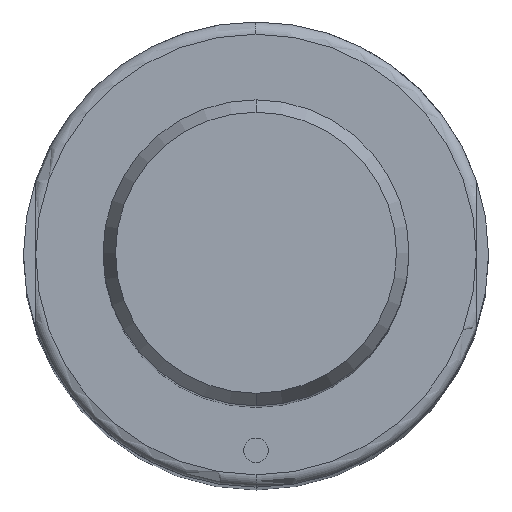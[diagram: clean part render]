
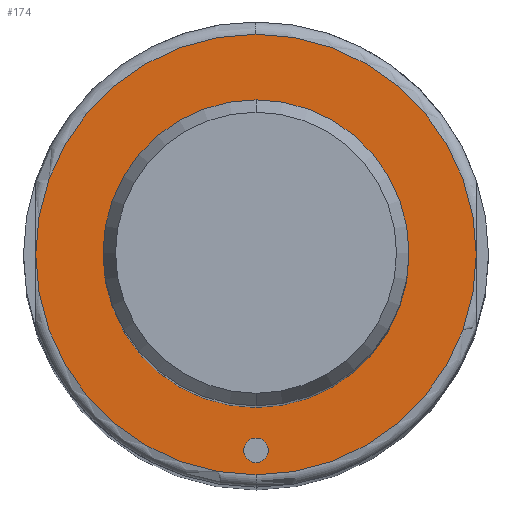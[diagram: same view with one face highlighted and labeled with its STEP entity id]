
A CAD part, top view. The second image highlights one B-rep face of the part: STEP entity #174.
In plain terms, the highlighted planar face has unit normal (0, 0, 1).
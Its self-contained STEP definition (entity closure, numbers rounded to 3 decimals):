
#105=FACE_BOUND('',#298,.T.);
#106=FACE_BOUND('',#299,.T.);
#107=FACE_BOUND('',#300,.T.);
#125=PLANE('',#985);
#174=ADVANCED_FACE('',(#105,#106,#107),#125,.T.);
#298=EDGE_LOOP('',(#459,#460,#461,#462));
#299=EDGE_LOOP('',(#463,#464));
#300=EDGE_LOOP('',(#465,#466));
#367=CIRCLE('',#968,12.5);
#368=CIRCLE('',#970,12.5);
#373=CIRCLE('',#979,18.);
#374=CIRCLE('',#980,18.);
#375=CIRCLE('',#981,18.);
#376=CIRCLE('',#982,18.);
#377=CIRCLE('',#983,1.);
#378=CIRCLE('',#984,1.);
#459=ORIENTED_EDGE('',*,*,#765,.F.);
#460=ORIENTED_EDGE('',*,*,#766,.F.);
#461=ORIENTED_EDGE('',*,*,#767,.F.);
#462=ORIENTED_EDGE('',*,*,#768,.F.);
#463=ORIENTED_EDGE('',*,*,#769,.F.);
#464=ORIENTED_EDGE('',*,*,#770,.F.);
#465=ORIENTED_EDGE('',*,*,#758,.T.);
#466=ORIENTED_EDGE('',*,*,#756,.T.);
#677=VERTEX_POINT('',#1411);
#678=VERTEX_POINT('',#1413);
#683=VERTEX_POINT('',#1432);
#684=VERTEX_POINT('',#1433);
#685=VERTEX_POINT('',#1435);
#686=VERTEX_POINT('',#1437);
#687=VERTEX_POINT('',#1440);
#688=VERTEX_POINT('',#1441);
#756=EDGE_CURVE('',#678,#677,#367,.T.);
#758=EDGE_CURVE('',#677,#678,#368,.T.);
#765=EDGE_CURVE('',#683,#684,#373,.T.);
#766=EDGE_CURVE('',#685,#683,#374,.T.);
#767=EDGE_CURVE('',#686,#685,#375,.T.);
#768=EDGE_CURVE('',#684,#686,#376,.T.);
#769=EDGE_CURVE('',#687,#688,#377,.T.);
#770=EDGE_CURVE('',#688,#687,#378,.T.);
#968=AXIS2_PLACEMENT_3D('',#1412,#1108,#1109);
#970=AXIS2_PLACEMENT_3D('',#1416,#1113,#1114);
#979=AXIS2_PLACEMENT_3D('',#1431,#1133,#1134);
#980=AXIS2_PLACEMENT_3D('',#1434,#1135,#1136);
#981=AXIS2_PLACEMENT_3D('',#1436,#1137,#1138);
#982=AXIS2_PLACEMENT_3D('',#1438,#1139,#1140);
#983=AXIS2_PLACEMENT_3D('',#1439,#1141,#1142);
#984=AXIS2_PLACEMENT_3D('',#1442,#1143,#1144);
#985=AXIS2_PLACEMENT_3D('',#1443,#1145,#1146);
#1108=DIRECTION('',(0.,0.,-1.));
#1109=DIRECTION('',(-1.,0.,0.));
#1113=DIRECTION('',(0.,0.,-1.));
#1114=DIRECTION('',(1.,0.,0.));
#1133=DIRECTION('',(0.,0.,-1.));
#1134=DIRECTION('',(-1.,0.,0.));
#1135=DIRECTION('',(0.,0.,-1.));
#1136=DIRECTION('',(1.,0.,0.));
#1137=DIRECTION('',(0.,0.,-1.));
#1138=DIRECTION('',(1.,0.,0.));
#1139=DIRECTION('',(0.,0.,-1.));
#1140=DIRECTION('',(-1.,0.,0.));
#1141=DIRECTION('',(0.,0.,1.));
#1142=DIRECTION('',(1.,0.,0.));
#1143=DIRECTION('',(0.,0.,1.));
#1144=DIRECTION('',(-1.,0.,0.));
#1145=DIRECTION('',(0.,0.,1.));
#1146=DIRECTION('',(1.,0.,0.));
#1411=CARTESIAN_POINT('',(0.,-12.5,138.));
#1412=CARTESIAN_POINT('',(0.,0.,138.));
#1413=CARTESIAN_POINT('',(0.,12.5,138.));
#1416=CARTESIAN_POINT('',(0.,0.,138.));
#1431=CARTESIAN_POINT('',(0.,0.,138.));
#1432=CARTESIAN_POINT('',(0.,18.,138.));
#1433=CARTESIAN_POINT('',(18.,0.,138.));
#1434=CARTESIAN_POINT('',(0.,0.,138.));
#1435=CARTESIAN_POINT('',(-18.,0.,138.));
#1436=CARTESIAN_POINT('',(0.,0.,138.));
#1437=CARTESIAN_POINT('',(0.,-18.,138.));
#1438=CARTESIAN_POINT('',(0.,0.,138.));
#1439=CARTESIAN_POINT('',(0.,-16.,138.));
#1440=CARTESIAN_POINT('',(0.,-15.,138.));
#1441=CARTESIAN_POINT('',(0.,-17.,138.));
#1442=CARTESIAN_POINT('',(0.,-16.,138.));
#1443=CARTESIAN_POINT('',(0.,0.,138.));
